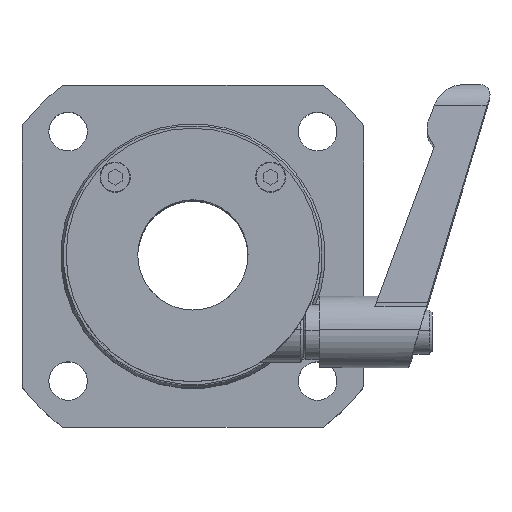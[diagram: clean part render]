
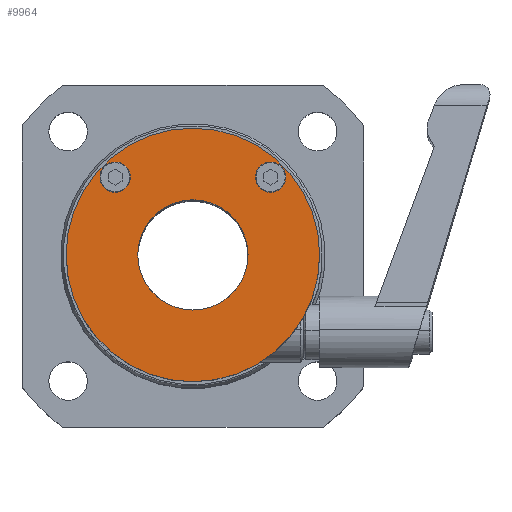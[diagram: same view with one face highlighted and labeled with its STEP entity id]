
A CAD part, top view. The second image highlights one B-rep face of the part: STEP entity #9964.
In plain terms, the highlighted planar face has unit normal (0, 0, 1).
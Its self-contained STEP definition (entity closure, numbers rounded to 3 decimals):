
#66 = AXIS2_PLACEMENT_3D ( 'NONE', #4797, #7835, #969 ) ;
#149 = EDGE_LOOP ( 'NONE', ( #2966, #1246 ) ) ;
#200 = ORIENTED_EDGE ( 'NONE', *, *, #2590, .F. ) ;
#357 = CARTESIAN_POINT ( 'NONE',  ( 1.414, 7.231, 52.89 ) ) ;
#411 = DIRECTION ( 'NONE',  ( 1., 0., 0. ) ) ;
#478 = DIRECTION ( 'NONE',  ( 0., 0., 1. ) ) ;
#524 = CARTESIAN_POINT ( 'NONE',  ( 1.414, -15.769, 52.89 ) ) ;
#867 = DIRECTION ( 'NONE',  ( 0., 0., 1. ) ) ;
#969 = DIRECTION ( 'NONE',  ( 0., -1., 0. ) ) ;
#1070 = DIRECTION ( 'NONE',  ( 1., 0., 0. ) ) ;
#1107 = VERTEX_POINT ( 'NONE', #6615 ) ;
#1183 = CARTESIAN_POINT ( 'NONE',  ( 1.414, 7.231, 52.89 ) ) ;
#1246 = ORIENTED_EDGE ( 'NONE', *, *, #3762, .F. ) ;
#1395 = EDGE_LOOP ( 'NONE', ( #2116, #5162 ) ) ;
#1536 = VERTEX_POINT ( 'NONE', #4657 ) ;
#1555 = CARTESIAN_POINT ( 'NONE',  ( 1.414, 7.231, 52.89 ) ) ;
#1792 = VERTEX_POINT ( 'NONE', #7500 ) ;
#2116 = ORIENTED_EDGE ( 'NONE', *, *, #8377, .T. ) ;
#2191 = VERTEX_POINT ( 'NONE', #8115 ) ;
#2201 = EDGE_LOOP ( 'NONE', ( #3274, #3263 ) ) ;
#2279 = VERTEX_POINT ( 'NONE', #4660 ) ;
#2308 = DIRECTION ( 'NONE',  ( 0., -1., 0. ) ) ;
#2361 = VERTEX_POINT ( 'NONE', #6507 ) ;
#2521 = VERTEX_POINT ( 'NONE', #524 ) ;
#2590 = EDGE_CURVE ( 'NONE', #2279, #6434, #7922, .T. ) ;
#2884 = AXIS2_PLACEMENT_3D ( 'NONE', #8800, #4852, #1070 ) ;
#2966 = ORIENTED_EDGE ( 'NONE', *, *, #9558, .F. ) ;
#3247 = CIRCLE ( 'NONE', #3578, 2.75 ) ;
#3263 = ORIENTED_EDGE ( 'NONE', *, *, #7334, .F. ) ;
#3274 = ORIENTED_EDGE ( 'NONE', *, *, #7079, .F. ) ;
#3314 = AXIS2_PLACEMENT_3D ( 'NONE', #357, #3476, #5689 ) ;
#3476 = DIRECTION ( 'NONE',  ( 0., 0., 1. ) ) ;
#3578 = AXIS2_PLACEMENT_3D ( 'NONE', #9627, #478, #8872 ) ;
#3617 = AXIS2_PLACEMENT_3D ( 'NONE', #1183, #867, #2308 ) ;
#3762 = EDGE_CURVE ( 'NONE', #2361, #1536, #3247, .T. ) ;
#3928 = CARTESIAN_POINT ( 'NONE',  ( 15.514, 21.331, 52.89 ) ) ;
#4010 = CIRCLE ( 'NONE', #7055, 23. ) ;
#4303 = CARTESIAN_POINT ( 'NONE',  ( 1.414, 7.231, 52.89 ) ) ;
#4388 = AXIS2_PLACEMENT_3D ( 'NONE', #8047, #4954, #411 ) ;
#4532 = PLANE ( 'NONE',  #7242 ) ;
#4650 = EDGE_CURVE ( 'NONE', #6434, #2279, #7452, .T. ) ;
#4657 = CARTESIAN_POINT ( 'NONE',  ( -15.436, 21.331, 52.89 ) ) ;
#4660 = CARTESIAN_POINT ( 'NONE',  ( 1.414, 17.231, 52.89 ) ) ;
#4729 = CARTESIAN_POINT ( 'NONE',  ( 1.414, -2.769, 52.89 ) ) ;
#4797 = CARTESIAN_POINT ( 'NONE',  ( 1.414, 7.231, 52.89 ) ) ;
#4852 = DIRECTION ( 'NONE',  ( 0., 0., 1. ) ) ;
#4954 = DIRECTION ( 'NONE',  ( 0., 0., 1. ) ) ;
#5155 = DIRECTION ( 'NONE',  ( 0., 0., 1. ) ) ;
#5162 = ORIENTED_EDGE ( 'NONE', *, *, #8688, .T. ) ;
#5232 = FACE_BOUND ( 'NONE', #2201, .T. ) ;
#5432 = FACE_OUTER_BOUND ( 'NONE', #1395, .T. ) ;
#5689 = DIRECTION ( 'NONE',  ( 0., -1., 0. ) ) ;
#6197 = CIRCLE ( 'NONE', #3314, 23. ) ;
#6283 = CIRCLE ( 'NONE', #9660, 2.75 ) ;
#6434 = VERTEX_POINT ( 'NONE', #4729 ) ;
#6507 = CARTESIAN_POINT ( 'NONE',  ( -9.936, 21.331, 52.89 ) ) ;
#6556 = DIRECTION ( 'NONE',  ( 0., -1., 0. ) ) ;
#6615 = CARTESIAN_POINT ( 'NONE',  ( 12.764, 21.331, 52.89 ) ) ;
#6889 = DIRECTION ( 'NONE',  ( 0., 0., 1. ) ) ;
#7055 = AXIS2_PLACEMENT_3D ( 'NONE', #4303, #5155, #6556 ) ;
#7079 = EDGE_CURVE ( 'NONE', #1107, #1792, #7419, .T. ) ;
#7226 = CIRCLE ( 'NONE', #2884, 2.75 ) ;
#7242 = AXIS2_PLACEMENT_3D ( 'NONE', #1555, #6889, #8414 ) ;
#7334 = EDGE_CURVE ( 'NONE', #1792, #1107, #6283, .T. ) ;
#7419 = CIRCLE ( 'NONE', #4388, 2.75 ) ;
#7452 = CIRCLE ( 'NONE', #66, 10. ) ;
#7500 = CARTESIAN_POINT ( 'NONE',  ( 18.264, 21.331, 52.89 ) ) ;
#7657 = DIRECTION ( 'NONE',  ( 1., 0., 0. ) ) ;
#7708 = EDGE_LOOP ( 'NONE', ( #200, #8886 ) ) ;
#7720 = FACE_BOUND ( 'NONE', #149, .T. ) ;
#7835 = DIRECTION ( 'NONE',  ( 0., 0., 1. ) ) ;
#7922 = CIRCLE ( 'NONE', #3617, 10. ) ;
#8047 = CARTESIAN_POINT ( 'NONE',  ( 15.514, 21.331, 52.89 ) ) ;
#8115 = CARTESIAN_POINT ( 'NONE',  ( 1.414, 30.231, 52.89 ) ) ;
#8377 = EDGE_CURVE ( 'NONE', #2191, #2521, #4010, .T. ) ;
#8414 = DIRECTION ( 'NONE',  ( 0., -1., 0. ) ) ;
#8688 = EDGE_CURVE ( 'NONE', #2521, #2191, #6197, .T. ) ;
#8800 = CARTESIAN_POINT ( 'NONE',  ( -12.686, 21.331, 52.89 ) ) ;
#8872 = DIRECTION ( 'NONE',  ( 1., 0., 0. ) ) ;
#8886 = ORIENTED_EDGE ( 'NONE', *, *, #4650, .F. ) ;
#9201 = FACE_BOUND ( 'NONE', #7708, .T. ) ;
#9244 = DIRECTION ( 'NONE',  ( 0., 0., 1. ) ) ;
#9558 = EDGE_CURVE ( 'NONE', #1536, #2361, #7226, .T. ) ;
#9627 = CARTESIAN_POINT ( 'NONE',  ( -12.686, 21.331, 52.89 ) ) ;
#9660 = AXIS2_PLACEMENT_3D ( 'NONE', #3928, #9244, #7657 ) ;
#9964 = ADVANCED_FACE ( 'NONE', ( #5232, #7720, #5432, #9201 ), #4532, .T. ) ;
